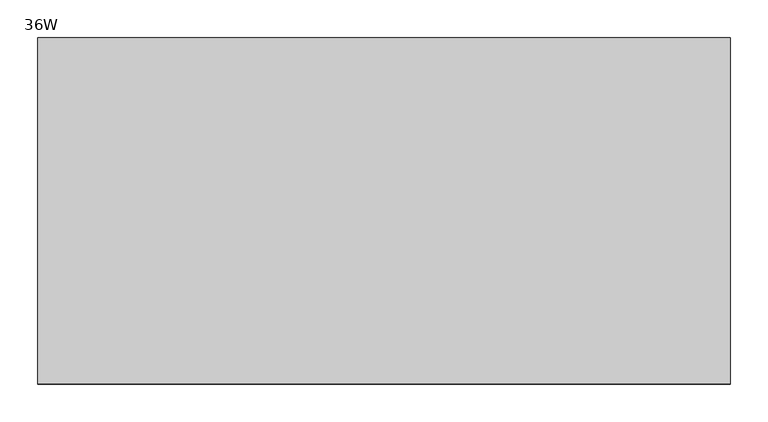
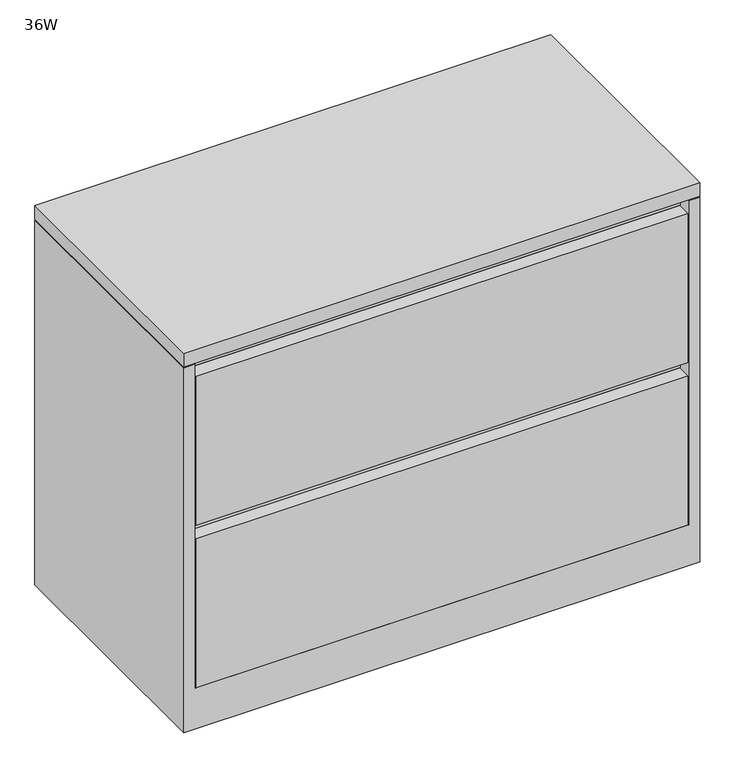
"""IFC4 building model written with IfcOpenShell, lengths in millimetres: furniture geometry, Steelcase - 900 Series - Storage - Lateral File With Drawer - 28H - Flush Steel : 36W."""

import ifcopenshell
import ifcopenshell.guid

model = None  # the IFC model being written
_history = None  # IfcOwnerHistory: only IFC2X3 demands one
_inside = {}  # id of a spatial element -> (the spatial element, [elements in it])
_under = {}  # id of a project, library or spatial element -> (it, [spatial elements below it])
_declared = {}  # id of a project -> (the project, [libraries it declares])
_typed = {}  # id of a type object -> (the type object, [elements of that type])
_made_of = {}  # id of a material, layer set ... -> (it, [elements and type objects made of it])


def new_model(schema):
    """Start an empty IFC model of exactly this schema.

    Asked for "IFC4X3", IfcOpenShell would pick the latest addendum, in which some entities
    have other attributes; the version numbers below select the first issue.
    IFC2X3 requires an IfcOwnerHistory on every rooted entity: one is made here for all.
    """
    global model, _history
    if schema == "IFC4X3":
        model = ifcopenshell.file(schema_version=(4, 3, 0, 0))
    else:
        model = ifcopenshell.file(schema=schema)
    _inside.clear()
    _under.clear()
    _declared.clear()
    _typed.clear()
    _made_of.clear()
    _history = None
    if model.schema == "IFC2X3":
        org = make("IfcOrganization", Name="unknown")
        user = make(
            "IfcPersonAndOrganization",
            ThePerson=make("IfcPerson", FamilyName="unknown"),
            TheOrganization=org,
        )
        app = make(
            "IfcApplication",
            ApplicationDeveloper=org,
            Version="unknown",
            ApplicationFullName="unknown",
            ApplicationIdentifier="unknown",
        )
        _history = make(
            "IfcOwnerHistory",
            OwningUser=user,
            OwningApplication=app,
            ChangeAction="ADDED",
            CreationDate=0,
        )
    return model


def make(cls, **values):
    """One entity of the class cls with the attributes given. An attribute that is None is left unset."""
    return model.create_entity(
        cls, **{name: value for name, value in values.items() if value is not None}
    )


def rooted(cls, **values):
    """An entity with a GlobalId (a new one), such as an element, a storey or a relation."""
    return make(cls, GlobalId=ifcopenshell.guid.new(), OwnerHistory=_history, **values)


def si_unit(unit_type, name, prefix=None):
    """IfcSIUnit, for example si_unit("LENGTHUNIT", "METRE", prefix="MILLI")."""
    return make("IfcSIUnit", UnitType=unit_type, Prefix=prefix, Name=name)


def assignment(units):
    """IfcUnitAssignment: the units of a project."""
    return None if units is None else make("IfcUnitAssignment", Units=units)


def point(xyz):
    """IfcCartesianPoint."""
    return None if xyz is None else make("IfcCartesianPoint", Coordinates=xyz)


def direction(xyz):
    """IfcDirection."""
    return None if xyz is None else make("IfcDirection", DirectionRatios=xyz)


def frame(location, z_axis=None, x_axis=None):
    """IfcAxis2Placement3D, a coordinate frame: its origin and axes. An axis left out is left unset."""
    return make(
        "IfcAxis2Placement3D",
        Location=point(location),
        Axis=direction(z_axis),
        RefDirection=direction(x_axis),
    )


def origin():
    """The frame at (0, 0, 0) with its axes left unset."""
    return frame((0.0, 0.0, 0.0))


def place(relative_to, where):
    """IfcLocalPlacement: puts the frame where relative to a parent placement (None: the world)."""
    return make(
        "IfcLocalPlacement", PlacementRelTo=relative_to, RelativePlacement=where
    )


def context(
    kind, dimensions, precision=None, world=None, true_north=None, identifier=None
):
    """IfcGeometricRepresentationContext, for example the 3D "Model" context."""
    return make(
        "IfcGeometricRepresentationContext",
        ContextIdentifier=identifier,
        ContextType=kind,
        CoordinateSpaceDimension=dimensions,
        Precision=precision,
        WorldCoordinateSystem=world,
        TrueNorth=true_north,
    )


def project(units=None, contexts=None):
    """IfcProject with its units and contexts."""
    return rooted(
        "IfcProject",
        Name="project",
        RepresentationContexts=contexts,
        UnitsInContext=assignment(units),
    )


def spatial(cls, under=None, at=None, **own):
    """A site, building, storey or space (cls), placed at a placement, below another one or the project."""
    s = rooted(cls, ObjectPlacement=at, **own)
    if under is not None:
        _under.setdefault(under.id(), (under, []))[1].append(s)
    return s


def polyline(points):
    """IfcPolyline through the points."""
    return make("IfcPolyline", Points=[point(p) for p in points])


def outline(outer, holes=None, kind="AREA"):
    """IfcArbitraryClosedProfileDef: a profile drawn as a closed curve; with holes, ...WithVoids."""
    if holes is None:
        return make("IfcArbitraryClosedProfileDef", ProfileType=kind, OuterCurve=outer)
    return make(
        "IfcArbitraryProfileDefWithVoids",
        ProfileType=kind,
        OuterCurve=outer,
        InnerCurves=holes,
    )


def extrude(swept, where, along, depth):
    """IfcExtrudedAreaSolid: the profile swept, set in the frame where, extruded along a direction by depth."""
    return make(
        "IfcExtrudedAreaSolid",
        SweptArea=swept,
        Position=where,
        ExtrudedDirection=direction(along),
        Depth=depth,
    )


def faces_of(points, faces, orient=None, outer=None):
    """IfcFace entities. A face is a list of loops; a loop is a list of indices into points, from 0.

    orient and outer hold one flag for each loop. By default every Orientation is true, the
    first loop of a face is its IfcFaceOuterBound and the others are IfcFaceBound.
    """
    made = []
    for i, loops in enumerate(faces):
        bounds = []
        for j, loop in enumerate(loops):
            is_outer = j == 0 if outer is None else outer[i][j]
            bounds.append(
                make(
                    "IfcFaceOuterBound" if is_outer else "IfcFaceBound",
                    Bound=make("IfcPolyLoop", Polygon=[points[k] for k in loop]),
                    Orientation=True if orient is None else orient[i][j],
                )
            )
        made.append(make("IfcFace", Bounds=bounds))
    return made


def faceted_brep(points, faces, orient=None, outer=None, voids=None):
    """IfcFacetedBrep: a solid bounded by flat faces; with voids (closed shells), ...WithVoids."""
    shared = [point(p) for p in points]
    hull = make("IfcClosedShell", CfsFaces=faces_of(shared, faces, orient, outer))
    if voids is None:
        return make("IfcFacetedBrep", Outer=hull)
    return make(
        "IfcFacetedBrepWithVoids",
        Outer=hull,
        Voids=[
            make(cls, CfsFaces=faces_of(shared, fs, o, b)) for cls, fs, o, b in voids
        ],
    )


def shape(context_of_items, identifier, shape_type, items):
    """IfcShapeRepresentation: the items that make up one representation, for example the "Body"."""
    return make(
        "IfcShapeRepresentation",
        ContextOfItems=context_of_items,
        RepresentationIdentifier=identifier,
        RepresentationType=shape_type,
        Items=items,
    )


def source(mapping_origin, context_of_items, identifier, shape_type, items):
    """IfcRepresentationMap: a shape defined once, which mapped items show again and again."""
    return make(
        "IfcRepresentationMap",
        MappingOrigin=mapping_origin,
        MappedRepresentation=shape(context_of_items, identifier, shape_type, items),
    )


def transform(
    local_origin,
    x_axis=None,
    y_axis=None,
    z_axis=None,
    scale=None,
    scale2=None,
    scale3=None,
    uniform=True,
):
    """IfcCartesianTransformationOperator3D, or its non-uniform kind. x_axis, y_axis, z_axis: its Axis1, 2, 3."""
    if uniform:
        return make(
            "IfcCartesianTransformationOperator3D",
            Axis1=direction(x_axis),
            Axis2=direction(y_axis),
            LocalOrigin=point(local_origin),
            Scale=scale,
            Axis3=direction(z_axis),
        )
    return make(
        "IfcCartesianTransformationOperator3DnonUniform",
        Axis1=direction(x_axis),
        Axis2=direction(y_axis),
        LocalOrigin=point(local_origin),
        Scale=scale,
        Axis3=direction(z_axis),
        Scale2=scale2,
        Scale3=scale3,
    )


def mapped(mapping_source, mapping_target):
    """IfcMappedItem: shows the shape of a source again, moved by a transform."""
    return make(
        "IfcMappedItem", MappingSource=mapping_source, MappingTarget=mapping_target
    )


def made_of(thing, what):
    """Note that an element or type object is made of a material, layer set ...; save() writes the relation."""
    if what is not None:
        _made_of.setdefault(what.id(), (what, []))[1].append(thing)
    return thing


def element(
    cls,
    number,
    at=None,
    inside=None,
    cuts=None,
    type_object=None,
    material=None,
    context=None,
    identifier="Body",
    shape_type=None,
    held_by="IfcProductDefinitionShape",
    body=None,
    shapes=None,
    **own,
):
    """One element of the class cls, such as IfcWall. Its Tag is "e" and its number.

    at: its placement. inside: the storey or other place that contains it. cuts: it is an
    opening in that element (IfcRelVoidsElement). A single representation is given by context,
    identifier, shape_type and body (its items); several are given by shapes. held_by: the class
    of the entity that holds the representations. save() writes the other relations.
    """
    e = rooted(cls, Tag="e%d" % number, ObjectPlacement=at, **own)
    if body is not None:
        shapes = [shape(context, identifier, shape_type, body)]
    if shapes is not None:
        e.Representation = make(held_by, Representations=shapes)
    if inside is not None:
        _inside.setdefault(inside.id(), (inside, []))[1].append(e)
    if cuts is not None:
        rooted(
            "IfcRelVoidsElement", RelatingBuildingElement=cuts, RelatedOpeningElement=e
        )
    if type_object is not None:
        _typed.setdefault(type_object.id(), (type_object, []))[1].append(e)
    return made_of(e, material)


def aggregate(whole, parts):
    """IfcRelAggregates: a whole, such as a stair, and the parts it consists of."""
    return rooted("IfcRelAggregates", RelatingObject=whole, RelatedObjects=parts)


def save(model, path):
    """Write the relations noted so far, then the file.

    IfcRelAggregates (storeys below a building ...), IfcRelContainedInSpatialStructure (elements
    in a storey), IfcRelDefinesByType, IfcRelAssociatesMaterial and IfcRelDeclares: one each for
    every whole, place, type object, material and project.
    """
    for whole, parts in _under.values():
        aggregate(whole, parts)
    for where, things in _inside.values():
        rooted(
            "IfcRelContainedInSpatialStructure",
            RelatedElements=things,
            RelatingStructure=where,
        )
    for kind, things in _typed.values():
        rooted("IfcRelDefinesByType", RelatedObjects=things, RelatingType=kind)
    for what, things in _made_of.values():
        rooted("IfcRelAssociatesMaterial", RelatedObjects=things, RelatingMaterial=what)
    for by, libraries in _declared.values():
        rooted("IfcRelDeclares", RelatingContext=by, RelatedDefinitions=libraries)
    model.write(path)


def furniture_36w_dd08adda(model_context):
    return source(origin(), model_context, "Body", "SolidModel", [
        extrude(outline(polyline([(914.4, 0.0), (914.4, -457.2), (0.0, -457.2), (0.0, 0.0), (914.4, 0.0)])), frame((0.0, 0.0, 685.7999516), z_axis=(0.0, 0.0, 1.0), x_axis=(1.0, 0.0, 0.0)), (0.0, 0.0, 1.0), 25.4),
        faceted_brep([(895.0960184, -25.2721219, 684.276), (895.0960184, -457.2, 684.276), (914.4, -457.2, 684.276), (914.4, 0.0, 684.276), (0.0, 0.0, 684.276), (0.0, -457.2, 684.276), (19.3039998, -457.2, 684.276), (19.3039998, -25.2721219, 684.276), (0.0, -457.2, 0.0), (0.0, 0.0, 0.0), (914.4, 0.0, 0.0), (914.4, -457.2, 0.0), (895.0960184, -25.2721219, 381.0), (895.0960184, -431.800255, 381.0), (895.0960184, -431.800255, 355.6), (895.0960184, -25.2721219, 355.6), (895.0960184, -25.2721219, 76.2), (895.0960184, -457.2, 76.2), (19.3039998, -457.2, 76.2), (19.3039998, -25.2721219, 76.2), (19.3039998, -25.2721219, 355.6), (19.3039998, -431.800255, 355.6), (19.3039998, -431.800255, 381.0), (19.3039998, -25.2721219, 381.0)], [[[0, 1, 2, 3, 4, 5, 6, 7]], [[8, 9, 10, 11]], [[1, 0, 12, 13, 14, 15, 16, 17]], [[2, 1, 17, 18, 6, 5, 8, 11]], [[3, 2, 11, 10]], [[4, 3, 10, 9]], [[5, 4, 9, 8]], [[7, 6, 18, 19, 20, 21, 22, 23]], [[0, 7, 23, 12]], [[16, 15, 20, 19]], [[18, 17, 16, 19]], [[22, 13, 12, 23]], [[13, 22, 21, 14]], [[14, 21, 20, 15]]]),
        extrude(outline(polyline([(895.0960184, -25.2721219), (895.0960184, -431.800255), (19.3039998, -431.800255), (19.3039998, -25.2721219), (895.0960184, -25.2721219)])), frame((0.0, 0.0, 660.4), z_axis=(0.0, 0.0, 1.0), x_axis=(1.0, 0.0, 0.0)), (0.0, 0.0, 1.0), 25.4),
        extrude(outline(polyline([(895.0960184, -25.2721219), (895.0960184, -415.9241219), (20.8289612, -415.9241219), (20.8289612, -25.2721219), (895.0960184, -25.2721219)])), frame((0.0, 0.0, 684.276), z_axis=(0.0, 0.0, 1.0), x_axis=(1.0, 0.0, 0.0)), (0.0, 0.0, 1.0), 1.5239516),
        extrude(outline(polyline([(893.5722015, -457.2), (20.8289612, -457.2), (20.8289612, -431.800255), (893.5722015, -431.800255), (893.5722015, -457.2)])), frame((0.0, 0.0, 76.2), z_axis=(0.0, 0.0, 1.0), x_axis=(1.0, 0.0, 0.0)), (0.0, 0.0, 1.0), 279.4),
        extrude(outline(polyline([(893.5722015, -457.2), (20.8289612, -457.2), (20.8289612, -431.800255), (893.5722015, -431.800255), (893.5722015, -457.2)])), frame((0.0, 0.0, 381.0), z_axis=(0.0, 0.0, 1.0), x_axis=(1.0, 0.0, 0.0)), (0.0, 0.0, 1.0), 279.4),
    ])


if __name__ == "__main__":
    model = new_model("IFC4")
    model_context = context("Model", 3, world=origin())
    ifc_project = project(units=[si_unit("LENGTHUNIT", "METRE", prefix="MILLI")], contexts=[model_context])
    site = spatial("IfcSite", under=ifc_project)
    building = spatial("IfcBuilding", under=site)
    placement = place(None, origin())
    furniture_36w_shape = furniture_36w_dd08adda(model_context)
    element("IfcFurniture", 1, ObjectType="Steelcase - 900 Series - Storage - Lateral File With Drawer - 28H - Flush Steel : 36W", at=placement, inside=building, context=model_context, shape_type="MappedRepresentation", body=[
        mapped(furniture_36w_shape, transform((0.0, 0.0, 0.0), x_axis=(1.0, 0.0, 0.0), y_axis=(0.0, 1.0, 0.0), z_axis=(0.0, 0.0, 1.0))),
    ])
    save(model, "model.ifc")
